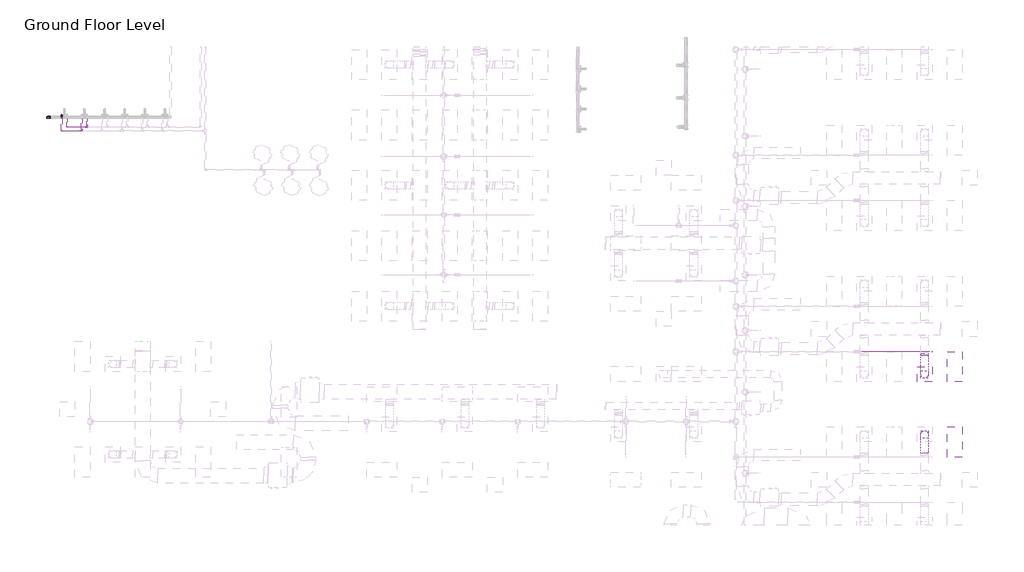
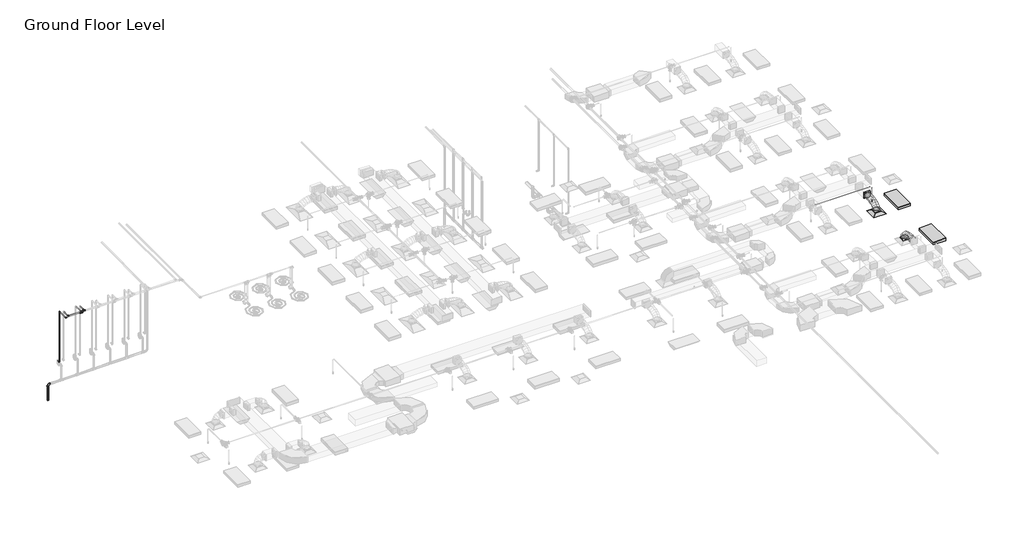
# One storey, part 38 of 68: 11 pipe fittings, 11 pipe segments, 3 duct fittings, 2 duct segments, 2 light fixtures, 1 air terminal, 1 fire suppression terminal.
"""IFC4 building model written with IfcOpenShell, lengths in millimetres."""

from ifc_helpers import new_model, si_unit, point, frame, frame_2d, origin, place, context, project, spatial, circle_curve, ellipse_curve, trimmed, segment, composite_curve, outline, extrude, transform, mapped, element, save
from ifc_brep_helpers import plane_surface, cylinder_surface, advanced_brep
from components import m_return_diffuser_600_x_600_face_300_x_300_connection_ff221211, m_rectangular_to_round_transition_angle_45_degree_641efff0, m_sprinkler_dry_pendent_hosted_15_mm_dry_pendent_9bda8e11, m_troffer_light_parabolic_rectangular1_0600x1200mm_4_lamp_86473d4a, m_bend_pvc_sch_40_dwv_standard_0eeb11e1, standard_b266ab3f, standard_72b35c3b, standard_e954f56a, standard_c7dcb452

model = new_model("IFC4")

# Units and contexts
model_context = context("Model", 3, world=origin())
ifc_project = project(units=[si_unit("LENGTHUNIT", "METRE", prefix="MILLI")], contexts=[model_context])

# Site, building, storey
site = spatial("IfcSite", under=ifc_project)
building = spatial("IfcBuilding", under=site)
storey = spatial("IfcBuildingStorey", under=building, Name="Ground Floor Level", Elevation=900.0)

# Air terminal
placement = place(None, origin())
m_return_diffuser_600_x_600_face_300_x_300_connection_shape = m_return_diffuser_600_x_600_face_300_x_300_connection_ff221211(model_context)
element("IfcAirTerminal", 1, ObjectType="M_Supply Diffuser : 600 x 600 Face 300 x 300 Connection", at=placement, inside=storey, context=model_context, shape_type="MappedRepresentation", body=[
    mapped(m_return_diffuser_600_x_600_face_300_x_300_connection_shape, transform((13142.7672395, -1074.7846466, 3650.0), x_axis=(1.0, 0.0, 0.0), y_axis=(0.0, 1.0, 0.0), z_axis=(0.0, 0.0, 1.0))),
])

# Duct fittings
m_rectangular_to_round_transition_angle_45_degree_shape = m_rectangular_to_round_transition_angle_45_degree_641efff0(model_context)
element("IfcDuctFitting", 2, ObjectType="M_Rectangular to Round Transition - Angle : 45 Degree", at=placement, inside=storey, context=model_context, shape_type="MappedRepresentation", body=[
    mapped(m_rectangular_to_round_transition_angle_45_degree_shape, transform((13142.7672395, -3464.7846466, 3751.6), x_axis=(0.0, 0.0, 1.0), y_axis=(-1.0, 0.0, 0.0), z_axis=(0.0, -1.0, 0.0))),
])
element("IfcDuctFitting", 3, ObjectType="M_Rectangular to Round Transition - Angle : 45 Degree", at=placement, inside=storey, context=model_context, shape_type="MappedRepresentation", body=[
    mapped(m_rectangular_to_round_transition_angle_45_degree_shape, transform((13142.7672395, -1074.7846466, 3751.6), x_axis=(0.0, 0.0, 1.0), y_axis=(-1.0, 0.0, 0.0), z_axis=(0.0, -1.0, 0.0))),
])
element("IfcDuctFitting", 4, ObjectType="M_Rectangular to Round Transition - Angle : 45 Degree", at=placement, inside=storey, context=model_context, shape_type="MappedRepresentation", body=[
    mapped(m_rectangular_to_round_transition_angle_45_degree_shape, transform((13142.7672395, -247.4487153, 4100.0), x_axis=(0.0, -1.0, 0.0), y_axis=(1.0, 0.0, 0.0), z_axis=(0.0, 0.0, 1.0))),
])

# Duct segments
element("IfcDuctSegment", 5, ObjectType="Flex - Round", at=placement, inside=storey, context=model_context, shape_type="AdvancedBrep", body=[
    advanced_brep(
    [(13292.7672395, -3464.7846466, 3826.6), (13142.7672395, -3614.7846466, 3826.6), (12992.7672395, -3464.7846466, 3826.6), (13142.7672395, -3314.7846466, 3826.6), (13292.7672395, -3464.7846466, 3857.9377114), (13142.7672395, -3614.7846466, 3832.2944892), (12992.7672395, -3464.7846466, 3857.9377114), (13142.7672395, -3314.7846466, 3883.5809337), (13292.7672395, -3481.8005792, 3906.2505728), (13142.7672395, -3615.5385581, 3834.435049), (12992.7672395, -3481.8005792, 3906.2505728), (13142.7672395, -3348.0626002, 3978.0660967), (13292.7672395, -3528.9844595, 3968.7113131), (13142.7672395, -3633.1903588, 3857.8020236), (12992.7672395, -3528.9844595, 3968.7113131), (13142.7672395, -3424.7785603, 4079.6206026), (13292.7672395, -3600.5404117, 4016.0700639), (13142.7672395, -3669.4744673, 3881.8163788), (12992.7672395, -3600.5404117, 4016.0700639), (13142.7672395, -3531.606356, 4150.3237489), (13292.7672395, -3690.6725597, 4050.4146682), (13142.7672395, -3734.2333228, 3906.4925606), (12992.7672395, -3690.6725597, 4050.4146682), (13142.7672395, -3647.1117965, 4194.3367758), (13292.7672395, -3793.5850275, 4073.8329691), (13142.7672395, -3820.1459515, 3926.0424542), (12992.7672395, -3793.5850275, 4073.8329691), (13142.7672395, -3767.0241035, 4221.6234841), (13292.7672395, -3903.4819392, 4088.4128097), (13142.7672395, -3918.6328416, 3939.1085462), (12992.7672395, -3903.4819392, 4088.4128097), (13142.7672395, -3888.3310369, 4237.7170733), (13292.7672395, -4014.5674189, 4096.242033), (13142.7672395, -4022.0727471, 3946.398915), (12992.7672395, -4014.5674189, 4096.242033), (13142.7672395, -4007.0620907, 4246.085151), (13292.7672395, -4121.0455904, 4099.4084821), (13142.7672395, -4123.7370835, 3949.4222102), (12992.7672395, -4121.0455904, 4099.4084821), (13142.7672395, -4118.3540973, 4249.394754), (13292.7672395, -4217.1205779, 4100.0), (13142.7672395, -4216.1970701, 4249.9971571), (12992.7672395, -4217.1205779, 4100.0), (13142.7672395, -4218.0440857, 3950.0028429)],
    [
        (0, 1, circle_curve(frame((13142.7672395, -3464.7846466, 3826.6), z_axis=(0.0, 0.0, -1.0), x_axis=(1.0, 0.0, 0.0)), 150.0)),
        (1, 2, circle_curve(frame((13142.7672395, -3464.7846466, 3826.6), z_axis=(0.0, 0.0, -1.0), x_axis=(1.0, 0.0, 0.0)), 150.0)),
        (2, 3, circle_curve(frame((13142.7672395, -3464.7846466, 3826.6), z_axis=(0.0, 0.0, -1.0), x_axis=(1.0, 0.0, 0.0)), 150.0)),
        (3, 0, circle_curve(frame((13142.7672395, -3464.7846466, 3826.6), z_axis=(0.0, 0.0, -1.0), x_axis=(1.0, 0.0, 0.0)), 150.0)),
        (0, 4),
        (4, 5, ellipse_curve(frame((13142.7672395, -3464.7846466, 3857.9377114), z_axis=(0.0, 0.16851014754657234, -0.9856999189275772), x_axis=(0.0, -0.9856999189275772, -0.1685101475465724)), 152.176131, 150.0)),
        (5, 1),
        (5, 6, ellipse_curve(frame((13142.7672395, -3464.7846466, 3857.9377114), z_axis=(0.0, 0.16851014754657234, -0.9856999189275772), x_axis=(0.0, -0.9856999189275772, -0.1685101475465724)), 152.176131, 150.0)),
        (6, 2),
        (6, 7, ellipse_curve(frame((13142.7672395, -3464.7846466, 3857.9377114), z_axis=(0.0, 0.16851014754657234, -0.9856999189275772), x_axis=(0.0, -0.9856999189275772, -0.1685101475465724)), 152.176131, 150.0)),
        (7, 3),
        (7, 4, ellipse_curve(frame((13142.7672395, -3464.7846466, 3857.9377114), z_axis=(0.0, 0.16851014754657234, -0.9856999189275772), x_axis=(0.0, -0.9856999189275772, -0.1685101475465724)), 152.176131, 150.0)),
        (4, 8),
        (8, 9, ellipse_curve(frame((13142.7672395, -3481.8005792, 3906.2505728), z_axis=(0.0, 0.47309225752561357, -0.8810128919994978), x_axis=(0.0, -0.8810128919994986, -0.47309225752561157)), 151.8002519, 150.0)),
        (9, 5),
        (9, 10, ellipse_curve(frame((13142.7672395, -3481.8005792, 3906.2505728), z_axis=(0.0, 0.47309225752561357, -0.8810128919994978), x_axis=(0.0, -0.8810128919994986, -0.47309225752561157)), 151.8002519, 150.0)),
        (10, 6),
        (10, 11, ellipse_curve(frame((13142.7672395, -3481.8005792, 3906.2505728), z_axis=(0.0, 0.47309225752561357, -0.8810128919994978), x_axis=(0.0, -0.8810128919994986, -0.47309225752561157)), 151.8002519, 150.0)),
        (11, 7),
        (11, 8, ellipse_curve(frame((13142.7672395, -3481.8005792, 3906.2505728), z_axis=(0.0, 0.47309225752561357, -0.8810128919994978), x_axis=(0.0, -0.8810128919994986, -0.47309225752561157)), 151.8002519, 150.0)),
        (8, 12),
        (12, 13, ellipse_curve(frame((13142.7672395, -3528.9844595, 3968.7113131), z_axis=(0.0, 0.7287877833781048, -0.6847396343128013), x_axis=(0.0, -0.6847396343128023, -0.7287877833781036)), 152.1832446, 150.0)),
        (13, 9),
        (13, 14, ellipse_curve(frame((13142.7672395, -3528.9844595, 3968.7113131), z_axis=(0.0, 0.7287877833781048, -0.6847396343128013), x_axis=(0.0, -0.6847396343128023, -0.7287877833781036)), 152.1832446, 150.0)),
        (14, 10),
        (14, 15, ellipse_curve(frame((13142.7672395, -3528.9844595, 3968.7113131), z_axis=(0.0, 0.7287877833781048, -0.6847396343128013), x_axis=(0.0, -0.6847396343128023, -0.7287877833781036)), 152.1832446, 150.0)),
        (15, 11),
        (15, 12, ellipse_curve(frame((13142.7672395, -3528.9844595, 3968.7113131), z_axis=(0.0, 0.7287877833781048, -0.6847396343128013), x_axis=(0.0, -0.6847396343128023, -0.7287877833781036)), 152.1832446, 150.0)),
        (12, 16),
        (16, 17, ellipse_curve(frame((13142.7672395, -3600.5404117, 4016.0700639), z_axis=(0.0, 0.8895859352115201, -0.45676784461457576), x_axis=(0.0, -0.45676784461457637, -0.8895859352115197)), 150.91705, 150.0)),
        (17, 13),
        (17, 18, ellipse_curve(frame((13142.7672395, -3600.5404117, 4016.0700639), z_axis=(0.0, 0.8895859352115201, -0.45676784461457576), x_axis=(0.0, -0.45676784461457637, -0.8895859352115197)), 150.91705, 150.0)),
        (18, 14),
        (18, 19, ellipse_curve(frame((13142.7672395, -3600.5404117, 4016.0700639), z_axis=(0.0, 0.8895859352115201, -0.45676784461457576), x_axis=(0.0, -0.45676784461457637, -0.8895859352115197)), 150.91705, 150.0)),
        (19, 15),
        (19, 16, ellipse_curve(frame((13142.7672395, -3600.5404117, 4016.0700639), z_axis=(0.0, 0.8895859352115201, -0.45676784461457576), x_axis=(0.0, -0.45676784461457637, -0.8895859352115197)), 150.91705, 150.0)),
        (16, 20),
        (20, 21, ellipse_curve(frame((13142.7672395, -3690.6725597, 4050.4146682), z_axis=(0.0, 0.9571203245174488, -0.2896906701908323), x_axis=(0.0, -0.2896906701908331, -0.9571203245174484)), 150.369921, 150.0)),
        (21, 17),
        (21, 22, ellipse_curve(frame((13142.7672395, -3690.6725597, 4050.4146682), z_axis=(0.0, 0.9571203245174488, -0.2896906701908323), x_axis=(0.0, -0.2896906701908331, -0.9571203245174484)), 150.369921, 150.0)),
        (22, 18),
        (22, 23, ellipse_curve(frame((13142.7672395, -3690.6725597, 4050.4146682), z_axis=(0.0, 0.9571203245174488, -0.2896906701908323), x_axis=(0.0, -0.2896906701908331, -0.9571203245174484)), 150.369921, 150.0)),
        (23, 19),
        (23, 20, ellipse_curve(frame((13142.7672395, -3690.6725597, 4050.4146682), z_axis=(0.0, 0.9571203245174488, -0.2896906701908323), x_axis=(0.0, -0.2896906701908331, -0.9571203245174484)), 150.369921, 150.0)),
        (20, 24),
        (24, 25, ellipse_curve(frame((13142.7672395, -3793.5850275, 4073.8329691), z_axis=(0.0, 0.9842313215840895, -0.17688613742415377), x_axis=(0.0, -0.17688613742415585, -0.9842313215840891)), 150.1583131, 150.0)),
        (25, 21),
        (25, 26, ellipse_curve(frame((13142.7672395, -3793.5850275, 4073.8329691), z_axis=(0.0, 0.9842313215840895, -0.17688613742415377), x_axis=(0.0, -0.17688613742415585, -0.9842313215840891)), 150.1583131, 150.0)),
        (26, 22),
        (26, 27, ellipse_curve(frame((13142.7672395, -3793.5850275, 4073.8329691), z_axis=(0.0, 0.9842313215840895, -0.17688613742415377), x_axis=(0.0, -0.17688613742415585, -0.9842313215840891)), 150.1583131, 150.0)),
        (27, 23),
        (27, 24, ellipse_curve(frame((13142.7672395, -3793.5850275, 4073.8329691), z_axis=(0.0, 0.9842313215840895, -0.17688613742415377), x_axis=(0.0, -0.17688613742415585, -0.9842313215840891)), 150.1583131, 150.0)),
        (24, 28),
        (28, 29, ellipse_curve(frame((13142.7672395, -3903.4819392, 4088.4128097), z_axis=(0.0, 0.9948906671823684, -0.10095821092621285), x_axis=(0.0, -0.10095821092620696, -0.9948906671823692)), 150.0710264, 150.0)),
        (29, 25),
        (29, 30, ellipse_curve(frame((13142.7672395, -3903.4819392, 4088.4128097), z_axis=(0.0, 0.9948906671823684, -0.10095821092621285), x_axis=(0.0, -0.10095821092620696, -0.9948906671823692)), 150.0710264, 150.0)),
        (30, 26),
        (30, 31, ellipse_curve(frame((13142.7672395, -3903.4819392, 4088.4128097), z_axis=(0.0, 0.9948906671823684, -0.10095821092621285), x_axis=(0.0, -0.10095821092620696, -0.9948906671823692)), 150.0710264, 150.0)),
        (31, 27),
        (31, 28, ellipse_curve(frame((13142.7672395, -3903.4819392, 4088.4128097), z_axis=(0.0, 0.9948906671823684, -0.10095821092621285), x_axis=(0.0, -0.10095821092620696, -0.9948906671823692)), 150.0710264, 150.0)),
        (28, 32),
        (32, 33, ellipse_curve(frame((13142.7672395, -4014.5674189, 4096.242033), z_axis=(0.0, 0.9987479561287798, -0.05002519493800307), x_axis=(0.0, -0.050025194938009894, -0.9987479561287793)), 150.0309634, 150.0)),
        (33, 29),
        (33, 34, ellipse_curve(frame((13142.7672395, -4014.5674189, 4096.242033), z_axis=(0.0, 0.9987479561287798, -0.05002519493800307), x_axis=(0.0, -0.050025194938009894, -0.9987479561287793)), 150.0309634, 150.0)),
        (34, 30),
        (34, 35, ellipse_curve(frame((13142.7672395, -4014.5674189, 4096.242033), z_axis=(0.0, 0.9987479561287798, -0.05002519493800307), x_axis=(0.0, -0.050025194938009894, -0.9987479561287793)), 150.0309634, 150.0)),
        (35, 31),
        (35, 32, ellipse_curve(frame((13142.7672395, -4014.5674189, 4096.242033), z_axis=(0.0, 0.9987479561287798, -0.05002519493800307), x_axis=(0.0, -0.050025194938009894, -0.9987479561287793)), 150.0309634, 150.0)),
        (32, 36),
        (36, 37, ellipse_curve(frame((13142.7672395, -4121.0455904, 4099.4084821), z_axis=(0.0, 0.9998390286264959, -0.017942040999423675), x_axis=(-1.8187895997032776e-12, -0.017942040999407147, -0.9998390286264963)), 150.0104193, 150.0)),
        (37, 33),
        (37, 38, ellipse_curve(frame((13142.7672395, -4121.0455904, 4099.4084821), z_axis=(0.0, 0.9998390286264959, -0.017942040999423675), x_axis=(-1.8187895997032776e-12, -0.017942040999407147, -0.9998390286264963)), 150.0104193, 150.0)),
        (38, 34),
        (38, 39, ellipse_curve(frame((13142.7672395, -4121.0455904, 4099.4084821), z_axis=(0.0, 0.9998390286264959, -0.017942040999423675), x_axis=(-1.8187895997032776e-12, -0.017942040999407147, -0.9998390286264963)), 150.0104193, 150.0)),
        (39, 35),
        (39, 36, ellipse_curve(frame((13142.7672395, -4121.0455904, 4099.4084821), z_axis=(0.0, 0.9998390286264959, -0.017942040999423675), x_axis=(-1.8187895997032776e-12, -0.017942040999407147, -0.9998390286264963)), 150.0104193, 150.0)),
        (40, 41, circle_curve(frame((13142.7672395, -4217.1205779, 4100.0), z_axis=(0.0, -0.9999810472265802, 0.006156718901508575), x_axis=(1.0, 0.0, 0.0)), 150.0)),
        (41, 42, circle_curve(frame((13142.7672395, -4217.1205779, 4100.0), z_axis=(0.0, -0.9999810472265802, 0.006156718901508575), x_axis=(1.0, 0.0, 0.0)), 150.0)),
        (42, 43, circle_curve(frame((13142.7672395, -4217.1205779, 4100.0), z_axis=(0.0, -0.9999810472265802, 0.006156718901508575), x_axis=(1.0, 0.0, 0.0)), 150.0)),
        (43, 40, circle_curve(frame((13142.7672395, -4217.1205779, 4100.0), z_axis=(0.0, -0.9999810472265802, 0.006156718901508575), x_axis=(1.0, 0.0, 0.0)), 150.0)),
        (36, 40),
        (43, 37),
        (42, 38),
        (41, 39),
    ],
    [
        plane_surface(frame((13142.7672395, -3614.7846466, 3826.6), z_axis=(0.0, 0.0, -1.0), x_axis=(1.0, 0.0, 0.0))),
        cylinder_surface(frame((13142.7672395, -3464.7846466, 3826.6), z_axis=(0.0, 0.0, -1.0), x_axis=(1.0, 0.0, 0.0)), 150.0),
        cylinder_surface(frame((13142.7672395, -3464.7846466, 3857.9377114), z_axis=(0.0, 0.3322008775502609, -0.9432086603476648), x_axis=(1.0, 0.0, 0.0)), 150.0),
        cylinder_surface(frame((13142.7672395, -3481.8005792, 3906.2505728), z_axis=(0.0, 0.6027625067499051, -0.7979206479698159), x_axis=(1.0, 0.0, 0.0)), 150.0),
        cylinder_surface(frame((13142.7672395, -3528.9844595, 3968.7113131), z_axis=(0.0, 0.833902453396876, -0.5519118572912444), x_axis=(1.0, 0.0, 0.0)), 150.0),
        cylinder_surface(frame((13142.7672395, -3600.5404117, 4016.0700639), z_axis=(0.0, 0.9344582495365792, -0.35607271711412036), x_axis=(1.0, 0.0, 0.0)), 150.0),
        cylinder_surface(frame((13142.7672395, -3690.6725597, 4050.4146682), z_axis=(0.0, 0.9750732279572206, -0.22188330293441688), x_axis=(1.0, 0.0, 0.0)), 150.0),
        cylinder_surface(frame((13142.7672395, -3793.5850275, 4073.8329691), z_axis=(0.0, 0.9913140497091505, -0.1315159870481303), x_axis=(1.0, 0.0, 0.0)), 150.0),
        cylinder_surface(frame((13142.7672395, -3903.4819392, 4088.4128097), z_axis=(0.0, 0.9975255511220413, -0.070304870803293), x_axis=(1.0, 0.0, 0.0)), 150.0),
        cylinder_surface(frame((13142.7672395, -4014.5674189, 4096.242033), z_axis=(0.0, 0.9995581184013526, -0.02972487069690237), x_axis=(1.0, 0.0, 0.0)), 150.0),
        plane_surface(frame((13142.7672395, -4218.0440857, 3950.0028429), z_axis=(0.0, -0.9999810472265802, 0.006156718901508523), x_axis=(1.0, 0.0, 0.0))),
        cylinder_surface(frame((13142.7672395, -4121.0455904, 4099.4084821), z_axis=(0.0, 0.9999810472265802, -0.006156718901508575), x_axis=(1.0, 0.0, 0.0)), 150.0),
    ],
    [
        (0, [[1, 2, 3, 4]]),
        (1, [[-1, 5, 6, 7]]),
        (1, [[-2, -7, 8, 9]]),
        (1, [[-3, -9, 10, 11]]),
        (1, [[-4, -11, 12, -5]]),
        (2, [[-6, 13, 14, 15]]),
        (2, [[-8, -15, 16, 17]]),
        (2, [[-10, -17, 18, 19]]),
        (2, [[-12, -19, 20, -13]]),
        (3, [[-14, 21, 22, 23]]),
        (3, [[-16, -23, 24, 25]]),
        (3, [[-18, -25, 26, 27]]),
        (3, [[-20, -27, 28, -21]]),
        (4, [[-22, 29, 30, 31]]),
        (4, [[-24, -31, 32, 33]]),
        (4, [[-26, -33, 34, 35]]),
        (4, [[-28, -35, 36, -29]]),
        (5, [[-30, 37, 38, 39]]),
        (5, [[-32, -39, 40, 41]]),
        (5, [[-34, -41, 42, 43]]),
        (5, [[-36, -43, 44, -37]]),
        (6, [[-38, 45, 46, 47]]),
        (6, [[-40, -47, 48, 49]]),
        (6, [[-42, -49, 50, 51]]),
        (6, [[-44, -51, 52, -45]]),
        (7, [[-46, 53, 54, 55]]),
        (7, [[-48, -55, 56, 57]]),
        (7, [[-50, -57, 58, 59]]),
        (7, [[-52, -59, 60, -53]]),
        (8, [[-54, 61, 62, 63]]),
        (8, [[-56, -63, 64, 65]]),
        (8, [[-58, -65, 66, 67]]),
        (8, [[-60, -67, 68, -61]]),
        (9, [[-62, 69, 70, 71]]),
        (9, [[-64, -71, 72, 73]]),
        (9, [[-66, -73, 74, 75]]),
        (9, [[-68, -75, 76, -69]]),
        (10, [[77, 78, 79, 80]]),
        (11, [[-70, 81, -80, 82]]),
        (11, [[-72, -82, -79, 83]]),
        (11, [[-74, -83, -78, 84]]),
        (11, [[-76, -84, -77, -81]]),
    ],
),
])
element("IfcDuctSegment", 6, ObjectType="Flex - Round", at=placement, inside=storey, context=model_context, shape_type="AdvancedBrep", body=[
    advanced_brep(
    [(13292.7672395, -1074.7846466, 3826.6), (13142.7672395, -1224.7846466, 3826.6), (12992.7672395, -1074.7846466, 3826.6), (13142.7672395, -924.7846466, 3826.6), (13292.7672395, -1074.7846466, 3857.9377114), (13142.7672395, -1224.7846466, 3883.5809337), (12992.7672395, -1074.7846466, 3857.9377114), (13142.7672395, -924.7846466, 3832.2944892), (13292.7672395, -1057.7687141, 3906.2505728), (13142.7672395, -1191.506693, 3978.0660967), (12992.7672395, -1057.7687141, 3906.2505728), (13142.7672395, -924.0307351, 3834.435049), (13292.7672395, -1010.5848337, 3968.7113131), (13142.7672395, -1114.790733, 4079.6206026), (12992.7672395, -1010.5848337, 3968.7113131), (13142.7672395, -906.3789345, 3857.8020236), (13292.7672395, -939.0288816, 4016.0700639), (13142.7672395, -1007.9629372, 4150.3237489), (12992.7672395, -939.0288816, 4016.0700639), (13142.7672395, -870.0948259, 3881.8163788), (13292.7672395, -848.8967336, 4050.4146682), (13142.7672395, -892.4574967, 4194.3367758), (12992.7672395, -848.8967336, 4050.4146682), (13142.7672395, -805.3359704, 3906.4925606), (13292.7672395, -745.9842657, 4073.8329691), (13142.7672395, -772.5451897, 4221.6234841), (12992.7672395, -745.9842657, 4073.8329691), (13142.7672395, -719.4233417, 3926.0424542), (13292.7672395, -636.087354, 4088.4128097), (13142.7672395, -651.2382563, 4237.7170733), (12992.7672395, -636.087354, 4088.4128097), (13142.7672395, -620.9364516, 3939.1085462), (13292.7672395, -525.0018744, 4096.242033), (13142.7672395, -532.5072025, 4246.085151), (12992.7672395, -525.0018744, 4096.242033), (13142.7672395, -517.4965462, 3946.398915), (13292.7672395, -418.5237028, 4099.4084821), (13142.7672395, -421.2151959, 4249.394754), (12992.7672395, -418.5237028, 4099.4084821), (13142.7672395, -415.8322097, 3949.4222102), (13292.7672395, -322.4487153, 4100.0), (13142.7672395, -321.5252075, 3950.0028429), (12992.7672395, -322.4487153, 4100.0), (13142.7672395, -323.3722232, 4249.9971571)],
    [
        (0, 1, circle_curve(frame((13142.7672395, -1074.7846466, 3826.6), z_axis=(0.0, 0.0, -1.0), x_axis=(1.0, 0.0, 0.0)), 150.0)),
        (1, 2, circle_curve(frame((13142.7672395, -1074.7846466, 3826.6), z_axis=(0.0, 0.0, -1.0), x_axis=(1.0, 0.0, 0.0)), 150.0)),
        (2, 3, circle_curve(frame((13142.7672395, -1074.7846466, 3826.6), z_axis=(0.0, 0.0, -1.0), x_axis=(1.0, 0.0, 0.0)), 150.0)),
        (3, 0, circle_curve(frame((13142.7672395, -1074.7846466, 3826.6), z_axis=(0.0, 0.0, -1.0), x_axis=(1.0, 0.0, 0.0)), 150.0)),
        (0, 4),
        (4, 5, ellipse_curve(frame((13142.7672395, -1074.7846466, 3857.9377114), z_axis=(0.0, -0.16851014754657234, -0.9856999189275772), x_axis=(0.0, 0.9856999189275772, -0.1685101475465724)), 152.176131, 150.0)),
        (5, 1),
        (5, 6, ellipse_curve(frame((13142.7672395, -1074.7846466, 3857.9377114), z_axis=(0.0, -0.16851014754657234, -0.9856999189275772), x_axis=(0.0, 0.9856999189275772, -0.1685101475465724)), 152.176131, 150.0)),
        (6, 2),
        (6, 7, ellipse_curve(frame((13142.7672395, -1074.7846466, 3857.9377114), z_axis=(0.0, -0.16851014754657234, -0.9856999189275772), x_axis=(0.0, 0.9856999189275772, -0.1685101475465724)), 152.176131, 150.0)),
        (7, 3),
        (7, 4, ellipse_curve(frame((13142.7672395, -1074.7846466, 3857.9377114), z_axis=(0.0, -0.16851014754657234, -0.9856999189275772), x_axis=(0.0, 0.9856999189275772, -0.1685101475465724)), 152.176131, 150.0)),
        (4, 8),
        (8, 9, ellipse_curve(frame((13142.7672395, -1057.7687141, 3906.2505728), z_axis=(0.0, -0.4730922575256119, -0.8810128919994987), x_axis=(0.0, 0.8810128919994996, -0.47309225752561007)), 151.8002519, 150.0)),
        (9, 5),
        (9, 10, ellipse_curve(frame((13142.7672395, -1057.7687141, 3906.2505728), z_axis=(0.0, -0.4730922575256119, -0.8810128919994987), x_axis=(0.0, 0.8810128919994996, -0.47309225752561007)), 151.8002519, 150.0)),
        (10, 6),
        (10, 11, ellipse_curve(frame((13142.7672395, -1057.7687141, 3906.2505728), z_axis=(0.0, -0.4730922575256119, -0.8810128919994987), x_axis=(0.0, 0.8810128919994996, -0.47309225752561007)), 151.8002519, 150.0)),
        (11, 7),
        (11, 8, ellipse_curve(frame((13142.7672395, -1057.7687141, 3906.2505728), z_axis=(0.0, -0.4730922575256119, -0.8810128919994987), x_axis=(0.0, 0.8810128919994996, -0.47309225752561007)), 151.8002519, 150.0)),
        (8, 12),
        (12, 13, ellipse_curve(frame((13142.7672395, -1010.5848337, 3968.7113131), z_axis=(0.0, -0.7287877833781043, -0.6847396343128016), x_axis=(0.0, 0.684739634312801, -0.7287877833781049)), 152.1832446, 150.0)),
        (13, 9),
        (13, 14, ellipse_curve(frame((13142.7672395, -1010.5848337, 3968.7113131), z_axis=(0.0, -0.7287877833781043, -0.6847396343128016), x_axis=(0.0, 0.684739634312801, -0.7287877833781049)), 152.1832446, 150.0)),
        (14, 10),
        (14, 15, ellipse_curve(frame((13142.7672395, -1010.5848337, 3968.7113131), z_axis=(0.0, -0.7287877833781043, -0.6847396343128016), x_axis=(0.0, 0.684739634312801, -0.7287877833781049)), 152.1832446, 150.0)),
        (15, 11),
        (15, 12, ellipse_curve(frame((13142.7672395, -1010.5848337, 3968.7113131), z_axis=(0.0, -0.7287877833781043, -0.6847396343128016), x_axis=(0.0, 0.684739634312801, -0.7287877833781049)), 152.1832446, 150.0)),
        (12, 16),
        (16, 17, ellipse_curve(frame((13142.7672395, -939.0288816, 4016.0700639), z_axis=(0.0, -0.8895859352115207, -0.4567678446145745), x_axis=(0.0, 0.45676784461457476, -0.8895859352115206)), 150.91705, 150.0)),
        (17, 13),
        (17, 18, ellipse_curve(frame((13142.7672395, -939.0288816, 4016.0700639), z_axis=(0.0, -0.8895859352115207, -0.4567678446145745), x_axis=(0.0, 0.45676784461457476, -0.8895859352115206)), 150.91705, 150.0)),
        (18, 14),
        (18, 19, ellipse_curve(frame((13142.7672395, -939.0288816, 4016.0700639), z_axis=(0.0, -0.8895859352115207, -0.4567678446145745), x_axis=(0.0, 0.45676784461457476, -0.8895859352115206)), 150.91705, 150.0)),
        (19, 15),
        (19, 16, ellipse_curve(frame((13142.7672395, -939.0288816, 4016.0700639), z_axis=(0.0, -0.8895859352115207, -0.4567678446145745), x_axis=(0.0, 0.45676784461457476, -0.8895859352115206)), 150.91705, 150.0)),
        (16, 20),
        (20, 21, ellipse_curve(frame((13142.7672395, -848.8967336, 4050.4146682), z_axis=(0.0, -0.9571203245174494, -0.2896906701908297), x_axis=(0.0, 0.2896906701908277, -0.9571203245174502)), 150.369921, 150.0)),
        (21, 17),
        (21, 22, ellipse_curve(frame((13142.7672395, -848.8967336, 4050.4146682), z_axis=(0.0, -0.9571203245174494, -0.2896906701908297), x_axis=(0.0, 0.2896906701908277, -0.9571203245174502)), 150.369921, 150.0)),
        (22, 18),
        (22, 23, ellipse_curve(frame((13142.7672395, -848.8967336, 4050.4146682), z_axis=(0.0, -0.9571203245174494, -0.2896906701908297), x_axis=(0.0, 0.2896906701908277, -0.9571203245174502)), 150.369921, 150.0)),
        (23, 19),
        (23, 20, ellipse_curve(frame((13142.7672395, -848.8967336, 4050.4146682), z_axis=(0.0, -0.9571203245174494, -0.2896906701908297), x_axis=(0.0, 0.2896906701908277, -0.9571203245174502)), 150.369921, 150.0)),
        (20, 24),
        (24, 25, ellipse_curve(frame((13142.7672395, -745.9842657, 4073.8329691), z_axis=(0.0, -0.9842313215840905, -0.1768861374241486), x_axis=(0.0, 0.17688613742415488, -0.9842313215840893)), 150.1583131, 150.0)),
        (25, 21),
        (25, 26, ellipse_curve(frame((13142.7672395, -745.9842657, 4073.8329691), z_axis=(0.0, -0.9842313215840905, -0.1768861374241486), x_axis=(0.0, 0.17688613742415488, -0.9842313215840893)), 150.1583131, 150.0)),
        (26, 22),
        (26, 27, ellipse_curve(frame((13142.7672395, -745.9842657, 4073.8329691), z_axis=(0.0, -0.9842313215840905, -0.1768861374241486), x_axis=(0.0, 0.17688613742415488, -0.9842313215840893)), 150.1583131, 150.0)),
        (27, 23),
        (27, 24, ellipse_curve(frame((13142.7672395, -745.9842657, 4073.8329691), z_axis=(0.0, -0.9842313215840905, -0.1768861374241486), x_axis=(0.0, 0.17688613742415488, -0.9842313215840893)), 150.1583131, 150.0)),
        (24, 28),
        (28, 29, ellipse_curve(frame((13142.7672395, -636.087354, 4088.4128097), z_axis=(0.0, -0.9948906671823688, -0.1009582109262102), x_axis=(0.0, 0.10095821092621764, -0.994890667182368)), 150.0710264, 150.0)),
        (29, 25),
        (29, 30, ellipse_curve(frame((13142.7672395, -636.087354, 4088.4128097), z_axis=(0.0, -0.9948906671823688, -0.1009582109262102), x_axis=(0.0, 0.10095821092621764, -0.994890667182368)), 150.0710264, 150.0)),
        (30, 26),
        (30, 31, ellipse_curve(frame((13142.7672395, -636.087354, 4088.4128097), z_axis=(0.0, -0.9948906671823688, -0.1009582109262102), x_axis=(0.0, 0.10095821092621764, -0.994890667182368)), 150.0710264, 150.0)),
        (31, 27),
        (31, 28, ellipse_curve(frame((13142.7672395, -636.087354, 4088.4128097), z_axis=(0.0, -0.9948906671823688, -0.1009582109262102), x_axis=(0.0, 0.10095821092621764, -0.994890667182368)), 150.0710264, 150.0)),
        (28, 32),
        (32, 33, ellipse_curve(frame((13142.7672395, -525.0018744, 4096.242033), z_axis=(0.0, -0.9987479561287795, -0.05002519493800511), x_axis=(0.0, 0.050025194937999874, -0.9987479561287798)), 150.0309634, 150.0)),
        (33, 29),
        (33, 34, ellipse_curve(frame((13142.7672395, -525.0018744, 4096.242033), z_axis=(0.0, -0.9987479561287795, -0.05002519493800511), x_axis=(0.0, 0.050025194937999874, -0.9987479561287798)), 150.0309634, 150.0)),
        (34, 30),
        (34, 35, ellipse_curve(frame((13142.7672395, -525.0018744, 4096.242033), z_axis=(0.0, -0.9987479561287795, -0.05002519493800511), x_axis=(0.0, 0.050025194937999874, -0.9987479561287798)), 150.0309634, 150.0)),
        (35, 31),
        (35, 32, ellipse_curve(frame((13142.7672395, -525.0018744, 4096.242033), z_axis=(0.0, -0.9987479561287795, -0.05002519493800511), x_axis=(0.0, 0.050025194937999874, -0.9987479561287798)), 150.0309634, 150.0)),
        (32, 36),
        (36, 37, ellipse_curve(frame((13142.7672395, -418.5237028, 4099.4084821), z_axis=(0.0, -0.9998390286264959, -0.017942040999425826), x_axis=(0.0, 0.017942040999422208, -0.999839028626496)), 150.0104193, 150.0)),
        (37, 33),
        (37, 38, ellipse_curve(frame((13142.7672395, -418.5237028, 4099.4084821), z_axis=(0.0, -0.9998390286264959, -0.017942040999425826), x_axis=(0.0, 0.017942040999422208, -0.999839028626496)), 150.0104193, 150.0)),
        (38, 34),
        (38, 39, ellipse_curve(frame((13142.7672395, -418.5237028, 4099.4084821), z_axis=(0.0, -0.9998390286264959, -0.017942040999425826), x_axis=(0.0, 0.017942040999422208, -0.999839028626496)), 150.0104193, 150.0)),
        (39, 35),
        (39, 36, ellipse_curve(frame((13142.7672395, -418.5237028, 4099.4084821), z_axis=(0.0, -0.9998390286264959, -0.017942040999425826), x_axis=(0.0, 0.017942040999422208, -0.999839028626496)), 150.0104193, 150.0)),
        (40, 41, circle_curve(frame((13142.7672395, -322.4487153, 4100.0), z_axis=(0.0, 0.9999810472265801, 0.006156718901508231), x_axis=(1.0, 0.0, 0.0)), 150.0)),
        (41, 42, circle_curve(frame((13142.7672395, -322.4487153, 4100.0), z_axis=(0.0, 0.9999810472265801, 0.006156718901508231), x_axis=(1.0, 0.0, 0.0)), 150.0)),
        (42, 43, circle_curve(frame((13142.7672395, -322.4487153, 4100.0), z_axis=(0.0, 0.9999810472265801, 0.006156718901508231), x_axis=(1.0, 0.0, 0.0)), 150.0)),
        (43, 40, circle_curve(frame((13142.7672395, -322.4487153, 4100.0), z_axis=(0.0, 0.9999810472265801, 0.006156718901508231), x_axis=(1.0, 0.0, 0.0)), 150.0)),
        (36, 40),
        (43, 37),
        (42, 38),
        (41, 39),
    ],
    [
        plane_surface(frame((13142.7672395, -1224.7846466, 3826.6), z_axis=(0.0, 0.0, -1.0), x_axis=(1.0, 0.0, 0.0))),
        cylinder_surface(frame((13142.7672395, -1074.7846466, 3826.6), z_axis=(0.0, 0.0, -1.0), x_axis=(1.0, 0.0, 0.0)), 150.0),
        cylinder_surface(frame((13142.7672395, -1074.7846466, 3857.9377114), z_axis=(0.0, -0.3322008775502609, -0.9432086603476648), x_axis=(1.0, 0.0, 0.0)), 150.0),
        cylinder_surface(frame((13142.7672395, -1057.7687141, 3906.2505728), z_axis=(0.0, -0.6027625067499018, -0.7979206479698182), x_axis=(1.0, 0.0, 0.0)), 150.0),
        cylinder_surface(frame((13142.7672395, -1010.5848337, 3968.7113131), z_axis=(0.0, -0.8339024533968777, -0.5519118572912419), x_axis=(1.0, 0.0, 0.0)), 150.0),
        cylinder_surface(frame((13142.7672395, -939.0288816, 4016.0700639), z_axis=(0.0, -0.9344582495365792, -0.3560727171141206), x_axis=(1.0, 0.0, 0.0)), 150.0),
        cylinder_surface(frame((13142.7672395, -848.8967336, 4050.4146682), z_axis=(0.0, -0.9750732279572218, -0.22188330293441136), x_axis=(1.0, 0.0, 0.0)), 150.0),
        cylinder_surface(frame((13142.7672395, -745.9842657, 4073.8329691), z_axis=(0.0, -0.9913140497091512, -0.1315159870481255), x_axis=(1.0, 0.0, 0.0)), 150.0),
        cylinder_surface(frame((13142.7672395, -636.087354, 4088.4128097), z_axis=(0.0, -0.9975255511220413, -0.07030487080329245), x_axis=(1.0, 0.0, 0.0)), 150.0),
        cylinder_surface(frame((13142.7672395, -525.0018744, 4096.242033), z_axis=(0.0, -0.9995581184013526, -0.029724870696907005), x_axis=(1.0, 0.0, 0.0)), 150.0),
        plane_surface(frame((13142.7672395, -323.3722232, 4249.9971571), z_axis=(0.0, 0.9999810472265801, 0.006156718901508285), x_axis=(1.0, 0.0, 0.0))),
        cylinder_surface(frame((13142.7672395, -418.5237028, 4099.4084821), z_axis=(0.0, -0.9999810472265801, -0.006156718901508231), x_axis=(1.0, 0.0, 0.0)), 150.0),
    ],
    [
        (0, [[1, 2, 3, 4]]),
        (1, [[-1, 5, 6, 7]]),
        (1, [[-2, -7, 8, 9]]),
        (1, [[-3, -9, 10, 11]]),
        (1, [[-4, -11, 12, -5]]),
        (2, [[-6, 13, 14, 15]]),
        (2, [[-8, -15, 16, 17]]),
        (2, [[-10, -17, 18, 19]]),
        (2, [[-12, -19, 20, -13]]),
        (3, [[-14, 21, 22, 23]]),
        (3, [[-16, -23, 24, 25]]),
        (3, [[-18, -25, 26, 27]]),
        (3, [[-20, -27, 28, -21]]),
        (4, [[-22, 29, 30, 31]]),
        (4, [[-24, -31, 32, 33]]),
        (4, [[-26, -33, 34, 35]]),
        (4, [[-28, -35, 36, -29]]),
        (5, [[-30, 37, 38, 39]]),
        (5, [[-32, -39, 40, 41]]),
        (5, [[-34, -41, 42, 43]]),
        (5, [[-36, -43, 44, -37]]),
        (6, [[-38, 45, 46, 47]]),
        (6, [[-40, -47, 48, 49]]),
        (6, [[-42, -49, 50, 51]]),
        (6, [[-44, -51, 52, -45]]),
        (7, [[-46, 53, 54, 55]]),
        (7, [[-48, -55, 56, 57]]),
        (7, [[-50, -57, 58, 59]]),
        (7, [[-52, -59, 60, -53]]),
        (8, [[-54, 61, 62, 63]]),
        (8, [[-56, -63, 64, 65]]),
        (8, [[-58, -65, 66, 67]]),
        (8, [[-60, -67, 68, -61]]),
        (9, [[-62, 69, 70, 71]]),
        (9, [[-64, -71, 72, 73]]),
        (9, [[-66, -73, 74, 75]]),
        (9, [[-68, -75, 76, -69]]),
        (10, [[77, 78, 79, 80]]),
        (11, [[-70, 81, -80, 82]]),
        (11, [[-72, -82, -79, 83]]),
        (11, [[-74, -83, -78, 84]]),
        (11, [[-76, -84, -77, -81]]),
    ],
),
])

# Fire suppression terminal
m_sprinkler_dry_pendent_hosted_15_mm_dry_pendent_shape = m_sprinkler_dry_pendent_hosted_15_mm_dry_pendent_9bda8e11(model_context)
element("IfcFireSuppressionTerminal", 7, ObjectType="M_Sprinkler - Dry - Pendent - Hosted : 15 mm Dry Pendent", at=placement, inside=storey, context=model_context, shape_type="MappedRepresentation", body=[
    mapped(m_sprinkler_dry_pendent_hosted_15_mm_dry_pendent_shape, transform((13442.7672395, -174.7846466, 3650.0), x_axis=(1.0, 0.0, 0.0), y_axis=(0.0, -1.0, 0.0), z_axis=(0.0, 0.0, -1.0))),
])

# Light fixtures
m_troffer_light_parabolic_rectangular1_0600x1200mm_4_lamp_shape = m_troffer_light_parabolic_rectangular1_0600x1200mm_4_lamp_86473d4a(model_context)
element("IfcLightFixture", 8, ObjectType="M_Troffer Light - Parabolic Rectangular1 : 0600x1200mm(4 Lamp) - 277V 2", at=placement, inside=storey, context=model_context, shape_type="MappedRepresentation", body=[
    mapped(m_troffer_light_parabolic_rectangular1_0600x1200mm_4_lamp_shape, transform((14283.3013074, -756.081145, 3650.0), x_axis=(0.0, 1.0, 0.0), y_axis=(-1.0, 0.0, 0.0), z_axis=(0.0, 0.0, 1.0))),
])
element("IfcLightFixture", 9, ObjectType="M_Troffer Light - Parabolic Rectangular1 : 0600x1200mm(4 Lamp) - 277V 2", at=placement, inside=storey, context=model_context, shape_type="MappedRepresentation", body=[
    mapped(m_troffer_light_parabolic_rectangular1_0600x1200mm_4_lamp_shape, transform((14283.3013074, -3746.081145, 3650.0), x_axis=(0.0, 1.0, 0.0), y_axis=(-1.0, 0.0, 0.0), z_axis=(0.0, 0.0, 1.0))),
])

# Pipe fittings
m_bend_pvc_sch_40_dwv_standard_shape = m_bend_pvc_sch_40_dwv_standard_0eeb11e1(model_context)
element("IfcPipeFitting", 10, ObjectType="M_Bend - PVC - Sch 40 - DWV : Standard", at=placement, inside=storey, context=model_context, shape_type="MappedRepresentation", body=[
    mapped(m_bend_pvc_sch_40_dwv_standard_shape, transform((-21725.2711391, 9143.7835646, 712.5143809), x_axis=(-0.9999500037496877, 0.0, -0.009999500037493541), y_axis=(0.009999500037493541, 0.0, -0.9999500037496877), z_axis=(0.0, -1.0, 0.0))),
])
standard_shape = standard_b266ab3f(model_context)
element("IfcPipeFitting", 11, ObjectType="M_Elbow - CPVC - Sch 40 : Standard", at=placement, inside=storey, context=model_context, shape_type="MappedRepresentation", body=[
    mapped(standard_shape, transform((-21165.5651206, 9135.2153534, 1690.0), x_axis=(0.0, -1.0, 0.0), y_axis=(0.0, 0.0, 1.0), z_axis=(-1.0, 0.0, 0.0))),
])
element("IfcPipeFitting", 12, ObjectType="M_Elbow - CPVC - Sch 40 : Standard", at=placement, inside=storey, context=model_context, shape_type="MappedRepresentation", body=[
    mapped(standard_shape, transform((-21165.5651206, 9135.2153534, 4315.0), x_axis=(0.0, 0.0, 1.0), y_axis=(0.0, -1.0, 0.0), z_axis=(1.0, 0.0, 0.0))),
])
element("IfcPipeFitting", 13, ObjectType="M_Elbow - CPVC - Sch 40 : Standard", at=placement, inside=storey, context=model_context, shape_type="MappedRepresentation", body=[
    mapped(standard_shape, transform((-21165.5651206, 8599.9071734, 4315.0), x_axis=(0.0, -1.0, 0.0), y_axis=(1.0, 0.0, 0.0), z_axis=(0.0, 0.0, 1.0))),
])
element("IfcPipeFitting", 14, ObjectType="M_Elbow - CPVC - Sch 40 : Standard", at=placement, inside=storey, context=model_context, shape_type="MappedRepresentation", body=[
    mapped(standard_shape, transform((-20956.9352794, 8755.2153534, 4250.0), x_axis=(0.0, -1.0, 0.0), y_axis=(1.0, 0.0, 0.0), z_axis=(0.0, 0.0, 1.0))),
])
standard_2_shape = standard_72b35c3b(model_context)
element("IfcPipeFitting", 15, ObjectType="M_Tee - CPVC - Sch 40 : Standard", at=placement, inside=storey, context=model_context, shape_type="MappedRepresentation", body=[
    mapped(standard_2_shape, transform((-20365.5651206, 8599.9071734, 4315.0), x_axis=(1.0, 0.0, 0.0), y_axis=(0.0, -1.0, 0.0), z_axis=(0.0, 0.0, -1.0))),
])
element("IfcPipeFitting", 16, ObjectType="M_Tee - CPVC - Sch 40 : Standard", at=placement, inside=storey, context=model_context, shape_type="MappedRepresentation", body=[
    mapped(standard_2_shape, transform((-20156.9352794, 8755.2153534, 4250.0), x_axis=(-1.0, 0.0, 0.0), y_axis=(0.0, -1.0, 0.0), z_axis=(0.0, 0.0, 1.0))),
])
standard_3_shape = standard_e954f56a(model_context)
element("IfcPipeFitting", 17, ObjectType="M_Coupling Reducing - CPVC - Sch 40 : Standard", at=placement, inside=storey, context=model_context, shape_type="MappedRepresentation", body=[
    mapped(standard_3_shape, transform((-20365.5651206, 8639.6073734, 4315.0), x_axis=(0.0, 1.0, 0.0), y_axis=(-1.0, 0.0, 0.0), z_axis=(0.0, 0.0, 1.0))),
])
element("IfcPipeFitting", 18, ObjectType="M_Coupling Reducing - CPVC - Sch 40 : Standard", at=placement, inside=storey, context=model_context, shape_type="MappedRepresentation", body=[
    mapped(standard_3_shape, transform((-20196.6354794, 8755.2153534, 4250.0), x_axis=(-1.0, 0.0, 0.0), y_axis=(0.0, -1.0, 0.0), z_axis=(0.0, 0.0, 1.0))),
])
element("IfcPipeFitting", 19, ObjectType="M_Coupling Reducing - CPVC - Sch 40 : Standard", at=placement, inside=storey, context=model_context, shape_type="MappedRepresentation", body=[
    mapped(standard_3_shape, transform((-20156.9352794, 8794.9155534, 4250.0), x_axis=(0.0, 1.0, 0.0), y_axis=(-1.0, 0.0, 0.0), z_axis=(0.0, 0.0, 1.0))),
])
standard_4_shape = standard_c7dcb452(model_context)
element("IfcPipeFitting", 20, ObjectType="M_Coupling Reducing - CPVC - Sch 40 : Standard", at=placement, inside=storey, context=model_context, shape_type="MappedRepresentation", body=[
    mapped(standard_4_shape, transform((-20462.4153206, 8599.9071734, 4315.0), x_axis=(1.0, 0.0, 0.0), y_axis=(0.0, 1.0, 0.0), z_axis=(0.0, 0.0, 1.0))),
])

# Pipe segments
element("IfcPipeSegment", 21, ObjectType="CPVC", at=placement, inside=storey, context=model_context, shape_type="SweptSolid", body=[
    extrude(outline(composite_curve([segment(trimmed(circle_curve(frame_2d((1690.0, -21165.5651206)), 13.335), [point((1690.0, -21178.9001206))], [point((1676.665, -21165.5651206))], False, "CARTESIAN"), True, "CONTINUOUS"), segment(trimmed(circle_curve(frame_2d((1690.0, -21165.5651206)), 13.335), [point((1676.665, -21165.5651206))], [point((1690.0, -21152.2301206))], False, "CARTESIAN"), True, "CONTINUOUS"), segment(trimmed(circle_curve(frame_2d((1690.0, -21165.5651206)), 13.335), [point((1690.0, -21152.2301206))], [point((1703.335, -21165.5651206))], False, "CARTESIAN"), True, "CONTINUOUS"), segment(trimmed(circle_curve(frame_2d((1690.0, -21165.5651206)), 13.335), [point((1703.335, -21165.5651206))], [point((1690.0, -21178.9001206))], False, "CARTESIAN"), True, "CONTINUOUS")], self_intersect=False)), frame((0.0, 9170.5404034, 0.0), z_axis=(0.0, 1.0, 0.0), x_axis=(0.0, 0.0, 1.0)), (0.0, 0.0, 1.0), 64.67495),
])
element("IfcPipeSegment", 22, ObjectType="CPVC", at=placement, inside=storey, context=model_context, shape_type="SweptSolid", body=[
    extrude(outline(composite_curve([segment(trimmed(circle_curve(frame_2d((4315.0, -21165.5651206)), 13.335), [point((4315.0, -21178.9001206))], [point((4301.665, -21165.5651206))], False, "CARTESIAN"), True, "CONTINUOUS"), segment(trimmed(circle_curve(frame_2d((4315.0, -21165.5651206)), 13.335), [point((4301.665, -21165.5651206))], [point((4315.0, -21152.2301206))], False, "CARTESIAN"), True, "CONTINUOUS"), segment(trimmed(circle_curve(frame_2d((4315.0, -21165.5651206)), 13.335), [point((4315.0, -21152.2301206))], [point((4328.335, -21165.5651206))], False, "CARTESIAN"), True, "CONTINUOUS"), segment(trimmed(circle_curve(frame_2d((4315.0, -21165.5651206)), 13.335), [point((4328.335, -21165.5651206))], [point((4315.0, -21178.9001206))], False, "CARTESIAN"), True, "CONTINUOUS")], self_intersect=False)), frame((0.0, 8635.2322234, 0.0), z_axis=(0.0, 1.0, 0.0), x_axis=(0.0, 0.0, 1.0)), (0.0, 0.0, 1.0), 464.65808),
])
element("IfcPipeSegment", 23, ObjectType="CPVC", at=placement, inside=storey, context=model_context, shape_type="SweptSolid", body=[
    extrude(outline(composite_curve([segment(trimmed(circle_curve(frame_2d((-21165.5651206, 9135.2153534)), 13.335), [point((-21178.9001206, 9135.2153534))], [point((-21165.5651206, 9148.5503534))], False, "CARTESIAN"), True, "CONTINUOUS"), segment(trimmed(circle_curve(frame_2d((-21165.5651206, 9135.2153534)), 13.335), [point((-21165.5651206, 9148.5503534))], [point((-21152.2301206, 9135.2153534))], False, "CARTESIAN"), True, "CONTINUOUS"), segment(trimmed(circle_curve(frame_2d((-21165.5651206, 9135.2153534)), 13.335), [point((-21152.2301206, 9135.2153534))], [point((-21165.5651206, 9121.8803534))], False, "CARTESIAN"), True, "CONTINUOUS"), segment(trimmed(circle_curve(frame_2d((-21165.5651206, 9135.2153534)), 13.335), [point((-21165.5651206, 9121.8803534))], [point((-21178.9001206, 9135.2153534))], False, "CARTESIAN"), True, "CONTINUOUS")], self_intersect=False)), frame((0.0, 0.0, 1725.32505), z_axis=(0.0, 0.0, 1.0), x_axis=(1.0, 0.0, 0.0)), (0.0, 0.0, 1.0), 2554.3499),
])
element("IfcPipeSegment", 24, ObjectType="CPVC", at=placement, inside=storey, context=model_context, shape_type="SweptSolid", body=[
    extrude(outline(composite_curve([segment(trimmed(circle_curve(frame_2d((4250.0, -20956.9352794)), 13.335), [point((4250.0, -20970.2702794))], [point((4236.665, -20956.9352794))], False, "CARTESIAN"), True, "CONTINUOUS"), segment(trimmed(circle_curve(frame_2d((4250.0, -20956.9352794)), 13.335), [point((4236.665, -20956.9352794))], [point((4250.0, -20943.6002794))], False, "CARTESIAN"), True, "CONTINUOUS"), segment(trimmed(circle_curve(frame_2d((4250.0, -20956.9352794)), 13.335), [point((4250.0, -20943.6002794))], [point((4263.335, -20956.9352794))], False, "CARTESIAN"), True, "CONTINUOUS"), segment(trimmed(circle_curve(frame_2d((4250.0, -20956.9352794)), 13.335), [point((4263.335, -20956.9352794))], [point((4250.0, -20970.2702794))], False, "CARTESIAN"), True, "CONTINUOUS")], self_intersect=False)), frame((0.0, 8790.5404034, 0.0), z_axis=(0.0, 1.0, 0.0), x_axis=(0.0, 0.0, 1.0)), (0.0, 0.0, 1.0), 309.3499),
])
element("IfcPipeSegment", 25, ObjectType="CPVC", at=placement, inside=storey, context=model_context, shape_type="SweptSolid", body=[
    extrude(outline(composite_curve([segment(trimmed(circle_curve(frame_2d((4315.0, -20365.5651206)), 13.335), [point((4315.0, -20378.9001206))], [point((4301.665, -20365.5651206))], False, "CARTESIAN"), True, "CONTINUOUS"), segment(trimmed(circle_curve(frame_2d((4315.0, -20365.5651206)), 13.335), [point((4301.665, -20365.5651206))], [point((4315.0, -20352.2301206))], False, "CARTESIAN"), True, "CONTINUOUS"), segment(trimmed(circle_curve(frame_2d((4315.0, -20365.5651206)), 13.335), [point((4315.0, -20352.2301206))], [point((4328.335, -20365.5651206))], False, "CARTESIAN"), True, "CONTINUOUS"), segment(trimmed(circle_curve(frame_2d((4315.0, -20365.5651206)), 13.335), [point((4328.335, -20365.5651206))], [point((4315.0, -20378.9001206))], False, "CARTESIAN"), True, "CONTINUOUS")], self_intersect=False)), frame((0.0, 8696.7573734, 0.0), z_axis=(0.0, 1.0, 0.0), x_axis=(0.0, 0.0, 1.0)), (0.0, 0.0, 1.0), 403.13293),
])
element("IfcPipeSegment", 26, ObjectType="CPVC", at=placement, inside=storey, context=model_context, shape_type="SweptSolid", body=[
    extrude(outline(composite_curve([segment(trimmed(circle_curve(frame_2d((4250.0, -20156.9352794)), 13.335), [point((4250.0, -20170.2702794))], [point((4236.665, -20156.9352794))], False, "CARTESIAN"), True, "CONTINUOUS"), segment(trimmed(circle_curve(frame_2d((4250.0, -20156.9352794)), 13.335), [point((4236.665, -20156.9352794))], [point((4250.0, -20143.6002794))], False, "CARTESIAN"), True, "CONTINUOUS"), segment(trimmed(circle_curve(frame_2d((4250.0, -20156.9352794)), 13.335), [point((4250.0, -20143.6002794))], [point((4263.335, -20156.9352794))], False, "CARTESIAN"), True, "CONTINUOUS"), segment(trimmed(circle_curve(frame_2d((4250.0, -20156.9352794)), 13.335), [point((4263.335, -20156.9352794))], [point((4250.0, -20170.2702794))], False, "CARTESIAN"), True, "CONTINUOUS")], self_intersect=False)), frame((0.0, 8852.0655534, 0.0), z_axis=(0.0, 1.0, 0.0), x_axis=(0.0, 0.0, 1.0)), (0.0, 0.0, 1.0), 247.82475),
])
element("IfcPipeSegment", 27, ObjectType="CPVC", at=placement, inside=storey, context=model_context, shape_type="SweptSolid", body=[
    extrude(outline(composite_curve([segment(trimmed(circle_curve(frame_2d((8599.9071734, 4315.0)), 13.335), [point((8586.5721734, 4315.0))], [point((8599.9071734, 4328.335))], False, "CARTESIAN"), True, "CONTINUOUS"), segment(trimmed(circle_curve(frame_2d((8599.9071734, 4315.0)), 13.335), [point((8599.9071734, 4328.335))], [point((8613.2421734, 4315.0))], False, "CARTESIAN"), True, "CONTINUOUS"), segment(trimmed(circle_curve(frame_2d((8599.9071734, 4315.0)), 13.335), [point((8613.2421734, 4315.0))], [point((8599.9071734, 4301.665))], False, "CARTESIAN"), True, "CONTINUOUS"), segment(trimmed(circle_curve(frame_2d((8599.9071734, 4315.0)), 13.335), [point((8599.9071734, 4301.665))], [point((8586.5721734, 4315.0))], False, "CARTESIAN"), True, "CONTINUOUS")], self_intersect=False)), frame((-21130.2400706, 0.0, 0.0), z_axis=(1.0, 0.0, 0.0), x_axis=(0.0, 1.0, 0.0)), (0.0, 0.0, 1.0), 667.82475),
])
element("IfcPipeSegment", 28, ObjectType="CPVC", at=placement, inside=storey, context=model_context, shape_type="SweptSolid", body=[
    extrude(outline(composite_curve([segment(trimmed(circle_curve(frame_2d((8755.2153534, 4250.0)), 13.335), [point((8741.8803534, 4250.0))], [point((8755.2153534, 4263.335))], False, "CARTESIAN"), True, "CONTINUOUS"), segment(trimmed(circle_curve(frame_2d((8755.2153534, 4250.0)), 13.335), [point((8755.2153534, 4263.335))], [point((8768.5503534, 4250.0))], False, "CARTESIAN"), True, "CONTINUOUS"), segment(trimmed(circle_curve(frame_2d((8755.2153534, 4250.0)), 13.335), [point((8768.5503534, 4250.0))], [point((8755.2153534, 4236.665))], False, "CARTESIAN"), True, "CONTINUOUS"), segment(trimmed(circle_curve(frame_2d((8755.2153534, 4250.0)), 13.335), [point((8755.2153534, 4236.665))], [point((8741.8803534, 4250.0))], False, "CARTESIAN"), True, "CONTINUOUS")], self_intersect=False)), frame((-20921.6102294, 0.0, 0.0), z_axis=(1.0, 0.0, 0.0), x_axis=(0.0, 1.0, 0.0)), (0.0, 0.0, 1.0), 667.82475),
])
element("IfcPipeSegment", 29, ObjectType="PVC - DWV", at=placement, inside=storey, context=model_context, shape_type="SweptSolid", body=[
    extrude(outline(composite_curve([segment(trimmed(circle_curve(frame_2d((0.0, -36.5125)), 36.5125), [point((-36.5125, -36.5125))], [point((0.0, 0.0))], False, "CARTESIAN"), True, "CONTINUOUS"), segment(trimmed(circle_curve(frame_2d((0.0, -36.5125)), 36.5125), [point((0.0, 0.0))], [point((36.5125, -36.5125))], False, "CARTESIAN"), True, "CONTINUOUS"), segment(trimmed(circle_curve(frame_2d((0.0, -36.5125)), 36.5125), [point((36.5125, -36.5125))], [point((0.0, -73.025))], False, "CARTESIAN"), True, "CONTINUOUS"), segment(trimmed(circle_curve(frame_2d((0.0, -36.5125)), 36.5125), [point((0.0, -73.025))], [point((-36.5125, -36.5125))], False, "CARTESIAN"), True, "CONTINUOUS")], self_intersect=False)), frame((-21725.2676395, 9107.2710646, -100.0), z_axis=(-4.9049032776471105e-06, 0.0, 0.999999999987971), x_axis=(-0.999999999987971, 0.0, -4.9049032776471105e-06)), (0.0, 0.0, 1.0), 713.5003184),
])
element("IfcPipeSegment", 30, ObjectType="Steel flanged", at=placement, inside=storey, context=model_context, shape_type="SweptSolid", body=[
    extrude(outline(composite_curve([segment(trimmed(circle_curve(frame_2d((13442.7672395, -174.7846466)), 10.668), [point((13432.0992395, -174.7846466))], [point((13442.7672395, -164.1166466))], False, "CARTESIAN"), True, "CONTINUOUS"), segment(trimmed(circle_curve(frame_2d((13442.7672395, -174.7846466)), 10.668), [point((13442.7672395, -164.1166466))], [point((13453.4352395, -174.7846466))], False, "CARTESIAN"), True, "CONTINUOUS"), segment(trimmed(circle_curve(frame_2d((13442.7672395, -174.7846466)), 10.668), [point((13453.4352395, -174.7846466))], [point((13442.7672395, -185.4526466))], False, "CARTESIAN"), True, "CONTINUOUS"), segment(trimmed(circle_curve(frame_2d((13442.7672395, -174.7846466)), 10.668), [point((13442.7672395, -185.4526466))], [point((13432.0992395, -174.7846466))], False, "CARTESIAN"), True, "CONTINUOUS")], self_intersect=False)), frame((0.0, 0.0, 3650.0), z_axis=(0.0, 0.0, 1.0), x_axis=(1.0, 0.0, 0.0)), (0.0, 0.0, 1.0), 616.9914062),
])
element("IfcPipeSegment", 31, ObjectType="Steel flanged", at=placement, inside=storey, context=model_context, shape_type="SweptSolid", body=[
    extrude(outline(composite_curve([segment(trimmed(circle_curve(frame_2d((-174.7846466, 4360.0)), 10.668), [point((-164.1166466, 4360.0))], [point((-174.7846466, 4349.332))], False, "CARTESIAN"), True, "CONTINUOUS"), segment(trimmed(circle_curve(frame_2d((-174.7846466, 4360.0)), 10.668), [point((-174.7846466, 4349.332))], [point((-185.4526466, 4360.0))], False, "CARTESIAN"), True, "CONTINUOUS"), segment(trimmed(circle_curve(frame_2d((-174.7846466, 4360.0)), 10.668), [point((-185.4526466, 4360.0))], [point((-174.7846466, 4370.668))], False, "CARTESIAN"), True, "CONTINUOUS"), segment(trimmed(circle_curve(frame_2d((-174.7846466, 4360.0)), 10.668), [point((-174.7846466, 4370.668))], [point((-164.1166466, 4360.0))], False, "CARTESIAN"), True, "CONTINUOUS")], self_intersect=False)), frame((10657.4758332, 0.0, 0.0), z_axis=(1.0, 0.0, 0.0), x_axis=(0.0, 1.0, 0.0)), (0.0, 0.0, 1.0), 2692.2828125),
])

save(model, "model.ifc")
